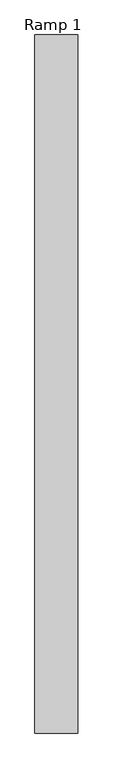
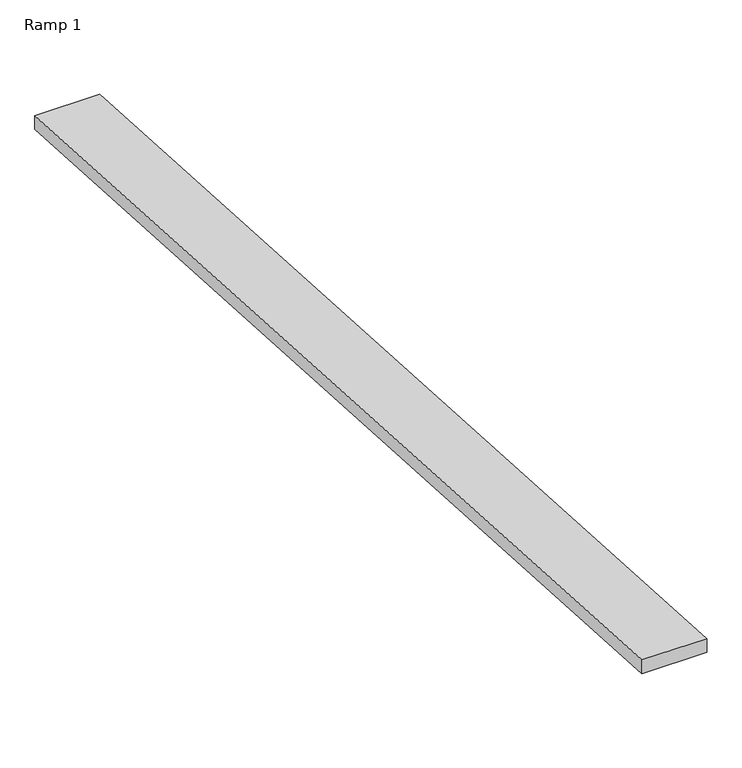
"""IFC4 building model written with IfcOpenShell, lengths in millimetres: ramp geometry, Ramp 1."""

from ifc_helpers import new_model, si_unit, frame, origin, place, context, project, spatial, polyline, outline, extrude, source, transform, mapped, element, save


def ramp_1_ca8601dd(model_context):
    return source(origin(), model_context, "Body", "SweptSolid", [
        extrude(outline(polyline([(1192.969685, -914.4), (12228.2479003, -1574.8), (12228.2479003, -1725.0683617), (1192.969685, -1064.6683617), (1192.969685, -914.4)])), frame((1270.0, 0.0, 0.0), z_axis=(1.0, 0.0, 0.0), x_axis=(0.0, 1.0, 0.0)), (0.0, 0.0, 1.0), 679.45),
    ])


if __name__ == "__main__":
    model = new_model("IFC4")
    model_context = context("Model", 3, world=origin())
    ifc_project = project(units=[si_unit("LENGTHUNIT", "METRE", prefix="MILLI")], contexts=[model_context])
    site = spatial("IfcSite", under=ifc_project)
    building = spatial("IfcBuilding", under=site)
    placement = place(None, origin())
    ramp_1_shape = ramp_1_ca8601dd(model_context)
    element("IfcRamp", 1, ObjectType="Ramp 1", at=placement, inside=building, context=model_context, shape_type="MappedRepresentation", body=[
        mapped(ramp_1_shape, transform((0.0, 0.0, 0.0), x_axis=(1.0, 0.0, 0.0), y_axis=(0.0, 1.0, 0.0), z_axis=(0.0, 0.0, 1.0))),
    ])
    save(model, "model.ifc")
